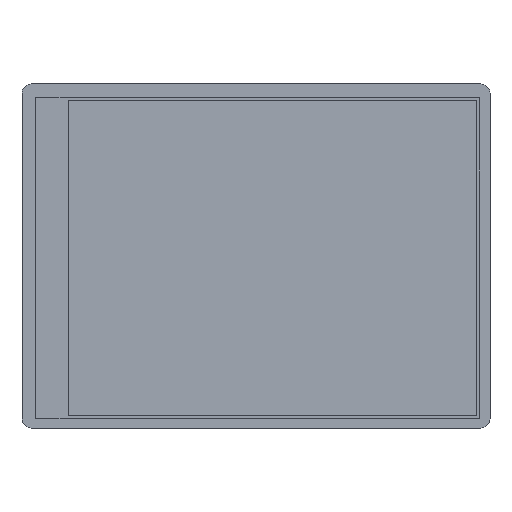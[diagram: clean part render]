
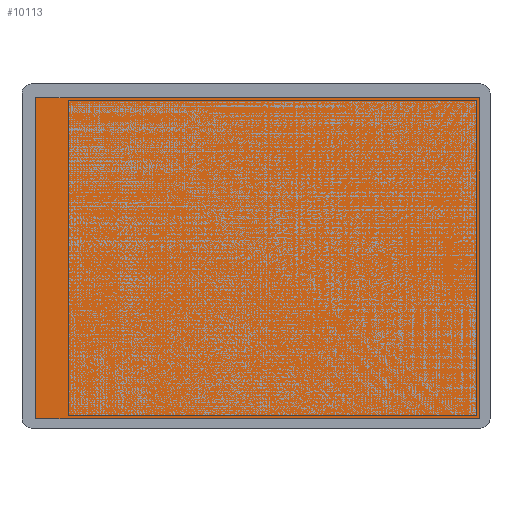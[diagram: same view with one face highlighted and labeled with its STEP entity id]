
A CAD part, top view. The second image highlights one B-rep face of the part: STEP entity #10113.
In plain terms, the highlighted planar face has unit normal (0, 0, 1).
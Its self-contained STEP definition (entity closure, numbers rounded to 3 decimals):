
#10113=ADVANCED_FACE('',(#12509),#11093,.T.);
#11093=PLANE('',#34333);
#12509=FACE_OUTER_BOUND('',#14091,.T.);
#14091=EDGE_LOOP('',(#21375,#21376,#21377,#21378));
#21375=ORIENTED_EDGE('',*,*,#27421,.T.);
#21376=ORIENTED_EDGE('',*,*,#27425,.T.);
#21377=ORIENTED_EDGE('',*,*,#27428,.T.);
#21378=ORIENTED_EDGE('',*,*,#27430,.T.);
#23775=VERTEX_POINT('',#59521);
#23776=VERTEX_POINT('',#59523);
#23778=VERTEX_POINT('',#59529);
#23780=VERTEX_POINT('',#59535);
#27421=EDGE_CURVE('',#23776,#23775,#30139,.T.);
#27425=EDGE_CURVE('',#23775,#23778,#30143,.T.);
#27428=EDGE_CURVE('',#23778,#23780,#30146,.T.);
#27430=EDGE_CURVE('',#23780,#23776,#30148,.T.);
#30139=LINE('',#59522,#32857);
#30143=LINE('',#59530,#32861);
#30146=LINE('',#59536,#32864);
#30148=LINE('',#59539,#32866);
#32857=VECTOR('',#39977,1.);
#32861=VECTOR('',#39983,1.);
#32864=VECTOR('',#39988,1.);
#32866=VECTOR('',#39992,1.);
#34333=AXIS2_PLACEMENT_3D('',#59541,#39995,#39996);
#39977=DIRECTION('',(0.,1.,0.));
#39983=DIRECTION('',(-1.,0.,0.));
#39988=DIRECTION('',(0.,-1.,0.));
#39992=DIRECTION('',(1.,0.,0.));
#39995=DIRECTION('',(0.,0.,1.));
#39996=DIRECTION('',(1.,0.,0.));
#59521=CARTESIAN_POINT('',(23.85,17.25,2.5));
#59522=CARTESIAN_POINT('',(23.85,-17.25,2.5));
#59523=CARTESIAN_POINT('',(23.85,-17.25,2.5));
#59529=CARTESIAN_POINT('',(-23.85,17.25,2.5));
#59530=CARTESIAN_POINT('',(23.85,17.25,2.5));
#59535=CARTESIAN_POINT('',(-23.85,-17.25,2.5));
#59536=CARTESIAN_POINT('',(-23.85,17.25,2.5));
#59539=CARTESIAN_POINT('',(-23.85,-17.25,2.5));
#59541=CARTESIAN_POINT('',(0.,0.,2.5));
